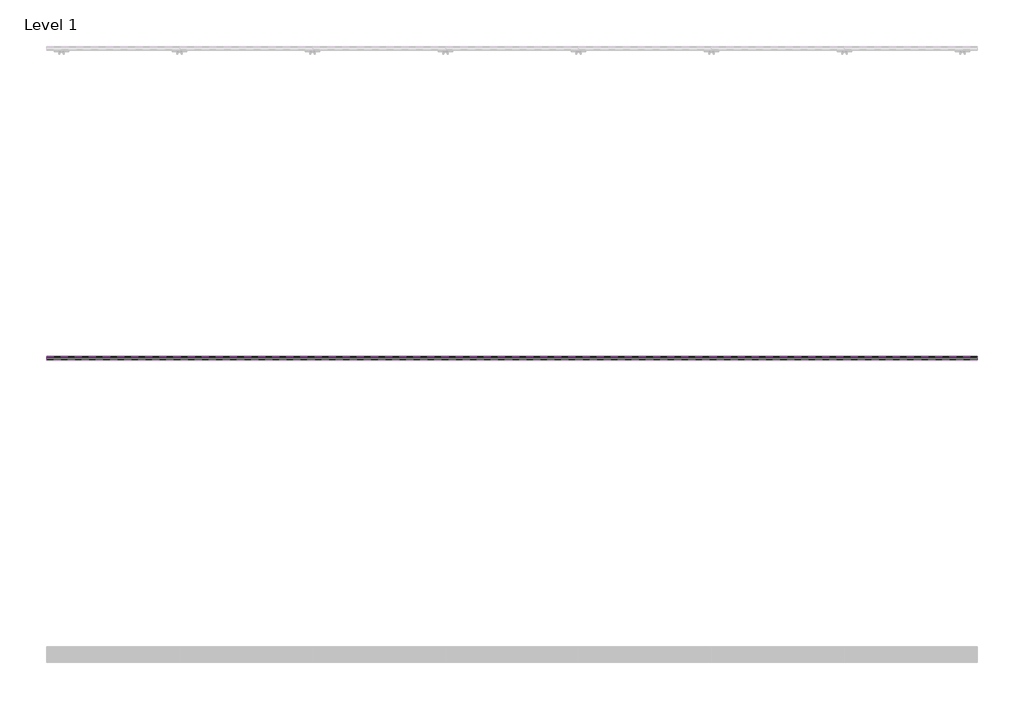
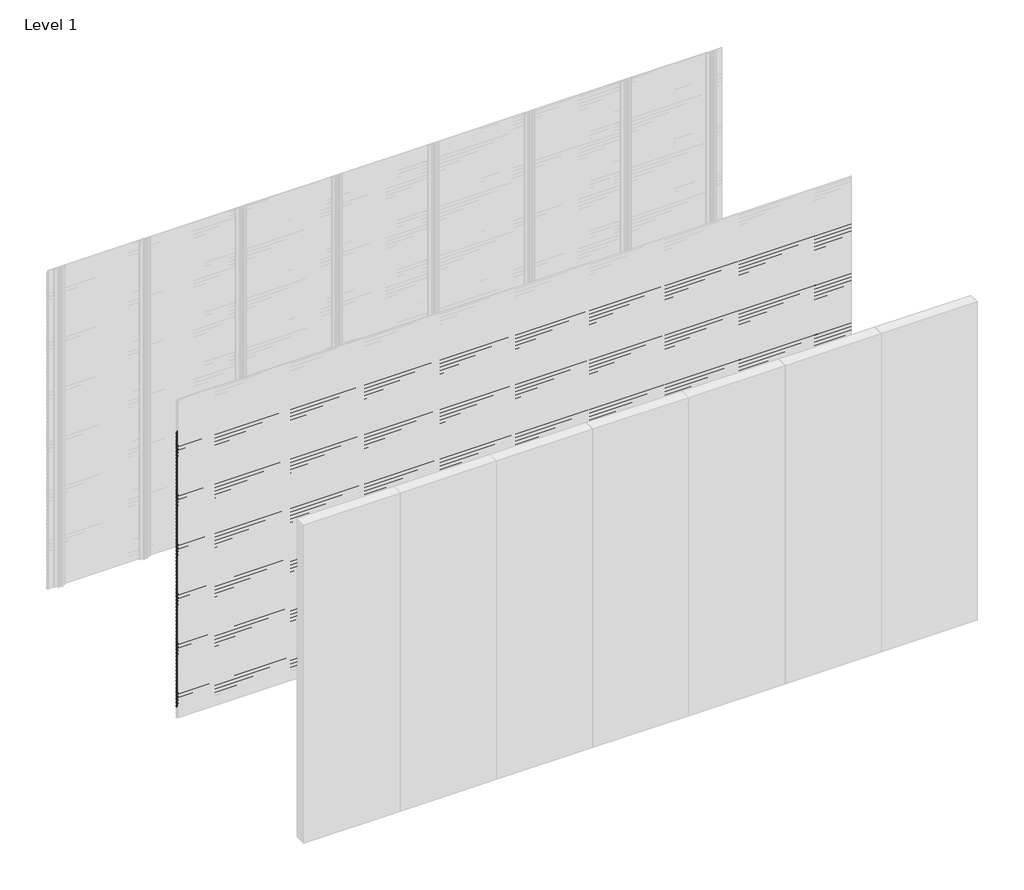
# One storey, part 4 of 96: 78 proxies.
"""IFC4 building model written with IfcOpenShell, lengths in millimetres."""

from ifc_helpers import new_model, si_unit, frame, origin, place, context, project, spatial, polyline, outline, extrude, element, save

model = new_model("IFC4")

# Units and contexts
model_context = context("Model", 3, world=origin())
ifc_project = project(units=[si_unit("LENGTHUNIT", "METRE", prefix="MILLI")], contexts=[model_context])

# Site, building, storey
site = spatial("IfcSite", under=ifc_project)
building = spatial("IfcBuilding", under=site)
storey = spatial("IfcBuildingStorey", under=building, Name="Level 1", Elevation=0.0)

# Proxies
placement = place(None, origin())
element("IfcBuildingElementProxy", 1, Name="Wall Sweeps", at=placement, inside=storey, context=model_context, shape_type="SweptSolid", body=[
    extrude(outline(polyline([(-55977.6, 2672.0655033), (-55977.6, 2657.7779188), (-55982.4114965, 2655.0), (-55982.4114965, 2656.2701706), (-55978.85, 2658.3264016), (-55978.85, 2671.3437382), (-55998.0, 2682.4000799), (-55998.0, 2697.3), (-55996.75, 2697.3), (-55996.75, 2683.1217609), (-55977.6, 2672.0655033)])), frame((0.0, 0.0, 0.0), z_axis=(1.0, 0.0, 0.0), x_axis=(0.0, 1.0, 0.0)), (0.0, 0.0, 1.0), 6000.0),
])
element("IfcBuildingElementProxy", 2, Name="Wall Sweeps", at=placement, inside=storey, context=model_context, shape_type="SweptSolid", body=[
    extrude(outline(polyline([(-55977.6, 2638.7655033), (-55977.6, 2624.4779188), (-55982.4114965, 2621.7), (-55982.4114965, 2622.9701706), (-55978.85, 2625.0264016), (-55978.85, 2638.0437382), (-55998.0, 2649.1000799), (-55998.0, 2664.0), (-55996.75, 2664.0), (-55996.75, 2649.8217609), (-55977.6, 2638.7655033)])), frame((0.0, 0.0, 0.0), z_axis=(1.0, 0.0, 0.0), x_axis=(0.0, 1.0, 0.0)), (0.0, 0.0, 1.0), 6000.0),
])
element("IfcBuildingElementProxy", 3, Name="Wall Sweeps", at=placement, inside=storey, context=model_context, shape_type="SweptSolid", body=[
    extrude(outline(polyline([(-55977.6, 2605.4655033), (-55977.6, 2591.1779188), (-55982.4114965, 2588.4), (-55982.4114965, 2589.6701706), (-55978.85, 2591.7264016), (-55978.85, 2604.7437382), (-55998.0, 2615.8000799), (-55998.0, 2630.7), (-55996.75, 2630.7), (-55996.75, 2616.5217609), (-55977.6, 2605.4655033)])), frame((0.0, 0.0, 0.0), z_axis=(1.0, 0.0, 0.0), x_axis=(0.0, 1.0, 0.0)), (0.0, 0.0, 1.0), 6000.0),
])
element("IfcBuildingElementProxy", 4, Name="Wall Sweeps", at=placement, inside=storey, context=model_context, shape_type="SweptSolid", body=[
    extrude(outline(polyline([(-55977.6, 2572.1655033), (-55977.6, 2557.8779188), (-55982.4114965, 2555.1), (-55982.4114965, 2556.3701706), (-55978.85, 2558.4264016), (-55978.85, 2571.4437382), (-55998.0, 2582.5000799), (-55998.0, 2597.4), (-55996.75, 2597.4), (-55996.75, 2583.2217609), (-55977.6, 2572.1655033)])), frame((0.0, 0.0, 0.0), z_axis=(1.0, 0.0, 0.0), x_axis=(0.0, 1.0, 0.0)), (0.0, 0.0, 1.0), 6000.0),
])
element("IfcBuildingElementProxy", 5, Name="Wall Sweeps", at=placement, inside=storey, context=model_context, shape_type="SweptSolid", body=[
    extrude(outline(polyline([(-55977.6, 2538.8655033), (-55977.6, 2524.5779188), (-55982.4114965, 2521.8), (-55982.4114965, 2523.0701706), (-55978.85, 2525.1264016), (-55978.85, 2538.1437382), (-55998.0, 2549.2000799), (-55998.0, 2564.1), (-55996.75, 2564.1), (-55996.75, 2549.9217609), (-55977.6, 2538.8655033)])), frame((0.0, 0.0, 0.0), z_axis=(1.0, 0.0, 0.0), x_axis=(0.0, 1.0, 0.0)), (0.0, 0.0, 1.0), 6000.0),
])
element("IfcBuildingElementProxy", 6, Name="Wall Sweeps", at=placement, inside=storey, context=model_context, shape_type="SweptSolid", body=[
    extrude(outline(polyline([(-55977.6, 2505.5655033), (-55977.6, 2491.2779188), (-55982.4114965, 2488.5), (-55982.4114965, 2489.7701706), (-55978.85, 2491.8264016), (-55978.85, 2504.8437382), (-55998.0, 2515.9000799), (-55998.0, 2530.8), (-55996.75, 2530.8), (-55996.75, 2516.6217609), (-55977.6, 2505.5655033)])), frame((0.0, 0.0, 0.0), z_axis=(1.0, 0.0, 0.0), x_axis=(0.0, 1.0, 0.0)), (0.0, 0.0, 1.0), 6000.0),
])
element("IfcBuildingElementProxy", 7, Name="Wall Sweeps", at=placement, inside=storey, context=model_context, shape_type="SweptSolid", body=[
    extrude(outline(polyline([(-55977.6, 2472.2655033), (-55977.6, 2457.9779188), (-55982.4114965, 2455.2), (-55982.4114965, 2456.4701706), (-55978.85, 2458.5264016), (-55978.85, 2471.5437382), (-55998.0, 2482.6000799), (-55998.0, 2497.5), (-55996.75, 2497.5), (-55996.75, 2483.3217609), (-55977.6, 2472.2655033)])), frame((0.0, 0.0, 0.0), z_axis=(1.0, 0.0, 0.0), x_axis=(0.0, 1.0, 0.0)), (0.0, 0.0, 1.0), 6000.0),
])
element("IfcBuildingElementProxy", 8, Name="Wall Sweeps", at=placement, inside=storey, context=model_context, shape_type="SweptSolid", body=[
    extrude(outline(polyline([(-55977.6, 2438.9655033), (-55977.6, 2424.6779188), (-55982.4114965, 2421.9), (-55982.4114965, 2423.1701706), (-55978.85, 2425.2264016), (-55978.85, 2438.2437382), (-55998.0, 2449.3000799), (-55998.0, 2464.2), (-55996.75, 2464.2), (-55996.75, 2450.0217609), (-55977.6, 2438.9655033)])), frame((0.0, 0.0, 0.0), z_axis=(1.0, 0.0, 0.0), x_axis=(0.0, 1.0, 0.0)), (0.0, 0.0, 1.0), 6000.0),
])
element("IfcBuildingElementProxy", 9, Name="Wall Sweeps", at=placement, inside=storey, context=model_context, shape_type="SweptSolid", body=[
    extrude(outline(polyline([(-55977.6, 2405.6655033), (-55977.6, 2391.3779188), (-55982.4114965, 2388.6), (-55982.4114965, 2389.8701706), (-55978.85, 2391.9264016), (-55978.85, 2404.9437382), (-55998.0, 2416.0000799), (-55998.0, 2430.9), (-55996.75, 2430.9), (-55996.75, 2416.7217609), (-55977.6, 2405.6655033)])), frame((0.0, 0.0, 0.0), z_axis=(1.0, 0.0, 0.0), x_axis=(0.0, 1.0, 0.0)), (0.0, 0.0, 1.0), 6000.0),
])
element("IfcBuildingElementProxy", 10, Name="Wall Sweeps", at=placement, inside=storey, context=model_context, shape_type="SweptSolid", body=[
    extrude(outline(polyline([(-55977.6, 2372.3655033), (-55977.6, 2358.0779188), (-55982.4114965, 2355.3), (-55982.4114965, 2356.5701706), (-55978.85, 2358.6264016), (-55978.85, 2371.6437382), (-55998.0, 2382.7000799), (-55998.0, 2397.6), (-55996.75, 2397.6), (-55996.75, 2383.4217609), (-55977.6, 2372.3655033)])), frame((0.0, 0.0, 0.0), z_axis=(1.0, 0.0, 0.0), x_axis=(0.0, 1.0, 0.0)), (0.0, 0.0, 1.0), 6000.0),
])
element("IfcBuildingElementProxy", 11, Name="Wall Sweeps", at=placement, inside=storey, context=model_context, shape_type="SweptSolid", body=[
    extrude(outline(polyline([(-55977.6, 2339.0655033), (-55977.6, 2324.7779188), (-55982.4114965, 2322.0), (-55982.4114965, 2323.2701706), (-55978.85, 2325.3264016), (-55978.85, 2338.3437382), (-55998.0, 2349.4000799), (-55998.0, 2364.3), (-55996.75, 2364.3), (-55996.75, 2350.1217609), (-55977.6, 2339.0655033)])), frame((0.0, 0.0, 0.0), z_axis=(1.0, 0.0, 0.0), x_axis=(0.0, 1.0, 0.0)), (0.0, 0.0, 1.0), 6000.0),
])
element("IfcBuildingElementProxy", 12, Name="Wall Sweeps", at=placement, inside=storey, context=model_context, shape_type="SweptSolid", body=[
    extrude(outline(polyline([(-55977.6, 2305.7655033), (-55977.6, 2291.4779188), (-55982.4114965, 2288.7), (-55982.4114965, 2289.9701706), (-55978.85, 2292.0264016), (-55978.85, 2305.0437382), (-55998.0, 2316.1000799), (-55998.0, 2331.0), (-55996.75, 2331.0), (-55996.75, 2316.8217609), (-55977.6, 2305.7655033)])), frame((0.0, 0.0, 0.0), z_axis=(1.0, 0.0, 0.0), x_axis=(0.0, 1.0, 0.0)), (0.0, 0.0, 1.0), 6000.0),
])
element("IfcBuildingElementProxy", 13, Name="Wall Sweeps", at=placement, inside=storey, context=model_context, shape_type="SweptSolid", body=[
    extrude(outline(polyline([(-55977.6, 2272.4655033), (-55977.6, 2258.1779188), (-55982.4114965, 2255.4), (-55982.4114965, 2256.6701706), (-55978.85, 2258.7264016), (-55978.85, 2271.7437382), (-55998.0, 2282.8000799), (-55998.0, 2297.7), (-55996.75, 2297.7), (-55996.75, 2283.5217609), (-55977.6, 2272.4655033)])), frame((0.0, 0.0, 0.0), z_axis=(1.0, 0.0, 0.0), x_axis=(0.0, 1.0, 0.0)), (0.0, 0.0, 1.0), 6000.0),
])
element("IfcBuildingElementProxy", 14, Name="Wall Sweeps", at=placement, inside=storey, context=model_context, shape_type="SweptSolid", body=[
    extrude(outline(polyline([(-55977.6, 2239.1655033), (-55977.6, 2224.8779188), (-55982.4114965, 2222.1), (-55982.4114965, 2223.3701706), (-55978.85, 2225.4264016), (-55978.85, 2238.4437382), (-55998.0, 2249.5000799), (-55998.0, 2264.4), (-55996.75, 2264.4), (-55996.75, 2250.2217609), (-55977.6, 2239.1655033)])), frame((0.0, 0.0, 0.0), z_axis=(1.0, 0.0, 0.0), x_axis=(0.0, 1.0, 0.0)), (0.0, 0.0, 1.0), 6000.0),
])
element("IfcBuildingElementProxy", 15, Name="Wall Sweeps", at=placement, inside=storey, context=model_context, shape_type="SweptSolid", body=[
    extrude(outline(polyline([(-55977.6, 2205.8655033), (-55977.6, 2191.5779188), (-55982.4114965, 2188.8), (-55982.4114965, 2190.0701706), (-55978.85, 2192.1264016), (-55978.85, 2205.1437382), (-55998.0, 2216.2000799), (-55998.0, 2231.1), (-55996.75, 2231.1), (-55996.75, 2216.9217609), (-55977.6, 2205.8655033)])), frame((0.0, 0.0, 0.0), z_axis=(1.0, 0.0, 0.0), x_axis=(0.0, 1.0, 0.0)), (0.0, 0.0, 1.0), 6000.0),
])
element("IfcBuildingElementProxy", 16, Name="Wall Sweeps", at=placement, inside=storey, context=model_context, shape_type="SweptSolid", body=[
    extrude(outline(polyline([(-55977.6, 2172.5655033), (-55977.6, 2158.2779188), (-55982.4114965, 2155.5), (-55982.4114965, 2156.7701706), (-55978.85, 2158.8264016), (-55978.85, 2171.8437382), (-55998.0, 2182.9000799), (-55998.0, 2197.8), (-55996.75, 2197.8), (-55996.75, 2183.6217609), (-55977.6, 2172.5655033)])), frame((0.0, 0.0, 0.0), z_axis=(1.0, 0.0, 0.0), x_axis=(0.0, 1.0, 0.0)), (0.0, 0.0, 1.0), 6000.0),
])
element("IfcBuildingElementProxy", 17, Name="Wall Sweeps", at=placement, inside=storey, context=model_context, shape_type="SweptSolid", body=[
    extrude(outline(polyline([(-55977.6, 2139.2655033), (-55977.6, 2124.9779188), (-55982.4114965, 2122.2), (-55982.4114965, 2123.4701706), (-55978.85, 2125.5264016), (-55978.85, 2138.5437382), (-55998.0, 2149.6000799), (-55998.0, 2164.5), (-55996.75, 2164.5), (-55996.75, 2150.3217609), (-55977.6, 2139.2655033)])), frame((0.0, 0.0, 0.0), z_axis=(1.0, 0.0, 0.0), x_axis=(0.0, 1.0, 0.0)), (0.0, 0.0, 1.0), 6000.0),
])
element("IfcBuildingElementProxy", 18, Name="Wall Sweeps", at=placement, inside=storey, context=model_context, shape_type="SweptSolid", body=[
    extrude(outline(polyline([(-55977.6, 2105.9655033), (-55977.6, 2091.6779188), (-55982.4114965, 2088.9), (-55982.4114965, 2090.1701706), (-55978.85, 2092.2264016), (-55978.85, 2105.2437382), (-55998.0, 2116.3000799), (-55998.0, 2131.2), (-55996.75, 2131.2), (-55996.75, 2117.0217609), (-55977.6, 2105.9655033)])), frame((0.0, 0.0, 0.0), z_axis=(1.0, 0.0, 0.0), x_axis=(0.0, 1.0, 0.0)), (0.0, 0.0, 1.0), 6000.0),
])
element("IfcBuildingElementProxy", 19, Name="Wall Sweeps", at=placement, inside=storey, context=model_context, shape_type="SweptSolid", body=[
    extrude(outline(polyline([(-55977.6, 2072.6655033), (-55977.6, 2058.3779188), (-55982.4114965, 2055.6), (-55982.4114965, 2056.8701706), (-55978.85, 2058.9264016), (-55978.85, 2071.9437382), (-55998.0, 2083.0000799), (-55998.0, 2097.9), (-55996.75, 2097.9), (-55996.75, 2083.7217609), (-55977.6, 2072.6655033)])), frame((0.0, 0.0, 0.0), z_axis=(1.0, 0.0, 0.0), x_axis=(0.0, 1.0, 0.0)), (0.0, 0.0, 1.0), 6000.0),
])
element("IfcBuildingElementProxy", 20, Name="Wall Sweeps", at=placement, inside=storey, context=model_context, shape_type="SweptSolid", body=[
    extrude(outline(polyline([(-55977.6, 2039.3655033), (-55977.6, 2025.0779188), (-55982.4114965, 2022.3), (-55982.4114965, 2023.5701706), (-55978.85, 2025.6264016), (-55978.85, 2038.6437382), (-55998.0, 2049.7000799), (-55998.0, 2064.6), (-55996.75, 2064.6), (-55996.75, 2050.4217609), (-55977.6, 2039.3655033)])), frame((0.0, 0.0, 0.0), z_axis=(1.0, 0.0, 0.0), x_axis=(0.0, 1.0, 0.0)), (0.0, 0.0, 1.0), 6000.0),
])
element("IfcBuildingElementProxy", 21, Name="Wall Sweeps", at=placement, inside=storey, context=model_context, shape_type="SweptSolid", body=[
    extrude(outline(polyline([(-55977.6, 2006.0655033), (-55977.6, 1991.7779188), (-55982.4114965, 1989.0), (-55982.4114965, 1990.2701706), (-55978.85, 1992.3264016), (-55978.85, 2005.3437382), (-55998.0, 2016.4000799), (-55998.0, 2031.3), (-55996.75, 2031.3), (-55996.75, 2017.1217609), (-55977.6, 2006.0655033)])), frame((0.0, 0.0, 0.0), z_axis=(1.0, 0.0, 0.0), x_axis=(0.0, 1.0, 0.0)), (0.0, 0.0, 1.0), 6000.0),
])
element("IfcBuildingElementProxy", 22, Name="Wall Sweeps", at=placement, inside=storey, context=model_context, shape_type="SweptSolid", body=[
    extrude(outline(polyline([(-55977.6, 1972.7655033), (-55977.6, 1958.4779188), (-55982.4114965, 1955.7), (-55982.4114965, 1956.9701706), (-55978.85, 1959.0264016), (-55978.85, 1972.0437382), (-55998.0, 1983.1000799), (-55998.0, 1998.0), (-55996.75, 1998.0), (-55996.75, 1983.8217609), (-55977.6, 1972.7655033)])), frame((0.0, 0.0, 0.0), z_axis=(1.0, 0.0, 0.0), x_axis=(0.0, 1.0, 0.0)), (0.0, 0.0, 1.0), 6000.0),
])
element("IfcBuildingElementProxy", 23, Name="Wall Sweeps", at=placement, inside=storey, context=model_context, shape_type="SweptSolid", body=[
    extrude(outline(polyline([(-55977.6, 1939.4655033), (-55977.6, 1925.1779188), (-55982.4114965, 1922.4), (-55982.4114965, 1923.6701706), (-55978.85, 1925.7264016), (-55978.85, 1938.7437382), (-55998.0, 1949.8000799), (-55998.0, 1964.7), (-55996.75, 1964.7), (-55996.75, 1950.5217609), (-55977.6, 1939.4655033)])), frame((0.0, 0.0, 0.0), z_axis=(1.0, 0.0, 0.0), x_axis=(0.0, 1.0, 0.0)), (0.0, 0.0, 1.0), 6000.0),
])
element("IfcBuildingElementProxy", 24, Name="Wall Sweeps", at=placement, inside=storey, context=model_context, shape_type="SweptSolid", body=[
    extrude(outline(polyline([(-55977.6, 1906.1655033), (-55977.6, 1891.8779188), (-55982.4114965, 1889.1), (-55982.4114965, 1890.3701706), (-55978.85, 1892.4264016), (-55978.85, 1905.4437382), (-55998.0, 1916.5000799), (-55998.0, 1931.4), (-55996.75, 1931.4), (-55996.75, 1917.2217609), (-55977.6, 1906.1655033)])), frame((0.0, 0.0, 0.0), z_axis=(1.0, 0.0, 0.0), x_axis=(0.0, 1.0, 0.0)), (0.0, 0.0, 1.0), 6000.0),
])
element("IfcBuildingElementProxy", 25, Name="Wall Sweeps", at=placement, inside=storey, context=model_context, shape_type="SweptSolid", body=[
    extrude(outline(polyline([(-55977.6, 1872.8655033), (-55977.6, 1858.5779188), (-55982.4114965, 1855.8), (-55982.4114965, 1857.0701706), (-55978.85, 1859.1264016), (-55978.85, 1872.1437382), (-55998.0, 1883.2000799), (-55998.0, 1898.1), (-55996.75, 1898.1), (-55996.75, 1883.9217609), (-55977.6, 1872.8655033)])), frame((0.0, 0.0, 0.0), z_axis=(1.0, 0.0, 0.0), x_axis=(0.0, 1.0, 0.0)), (0.0, 0.0, 1.0), 6000.0),
])
element("IfcBuildingElementProxy", 26, Name="Wall Sweeps", at=placement, inside=storey, context=model_context, shape_type="SweptSolid", body=[
    extrude(outline(polyline([(-55977.6, 1839.5655033), (-55977.6, 1825.2779188), (-55982.4114965, 1822.5), (-55982.4114965, 1823.7701706), (-55978.85, 1825.8264016), (-55978.85, 1838.8437382), (-55998.0, 1849.9000799), (-55998.0, 1864.8), (-55996.75, 1864.8), (-55996.75, 1850.6217609), (-55977.6, 1839.5655033)])), frame((0.0, 0.0, 0.0), z_axis=(1.0, 0.0, 0.0), x_axis=(0.0, 1.0, 0.0)), (0.0, 0.0, 1.0), 6000.0),
])
element("IfcBuildingElementProxy", 27, Name="Wall Sweeps", at=placement, inside=storey, context=model_context, shape_type="SweptSolid", body=[
    extrude(outline(polyline([(-55977.6, 1806.2655033), (-55977.6, 1791.9779188), (-55982.4114965, 1789.2), (-55982.4114965, 1790.4701706), (-55978.85, 1792.5264016), (-55978.85, 1805.5437382), (-55998.0, 1816.6000799), (-55998.0, 1831.5), (-55996.75, 1831.5), (-55996.75, 1817.3217609), (-55977.6, 1806.2655033)])), frame((0.0, 0.0, 0.0), z_axis=(1.0, 0.0, 0.0), x_axis=(0.0, 1.0, 0.0)), (0.0, 0.0, 1.0), 6000.0),
])
element("IfcBuildingElementProxy", 28, Name="Wall Sweeps", at=placement, inside=storey, context=model_context, shape_type="SweptSolid", body=[
    extrude(outline(polyline([(-55977.6, 1772.9655033), (-55977.6, 1758.6779188), (-55982.4114965, 1755.9), (-55982.4114965, 1757.1701706), (-55978.85, 1759.2264016), (-55978.85, 1772.2437382), (-55998.0, 1783.3000799), (-55998.0, 1798.2), (-55996.75, 1798.2), (-55996.75, 1784.0217609), (-55977.6, 1772.9655033)])), frame((0.0, 0.0, 0.0), z_axis=(1.0, 0.0, 0.0), x_axis=(0.0, 1.0, 0.0)), (0.0, 0.0, 1.0), 6000.0),
])
element("IfcBuildingElementProxy", 29, Name="Wall Sweeps", at=placement, inside=storey, context=model_context, shape_type="SweptSolid", body=[
    extrude(outline(polyline([(-55977.6, 1739.6655033), (-55977.6, 1725.3779188), (-55982.4114965, 1722.6), (-55982.4114965, 1723.8701706), (-55978.85, 1725.9264016), (-55978.85, 1738.9437382), (-55998.0, 1750.0000799), (-55998.0, 1764.9), (-55996.75, 1764.9), (-55996.75, 1750.7217609), (-55977.6, 1739.6655033)])), frame((0.0, 0.0, 0.0), z_axis=(1.0, 0.0, 0.0), x_axis=(0.0, 1.0, 0.0)), (0.0, 0.0, 1.0), 6000.0),
])
element("IfcBuildingElementProxy", 30, Name="Wall Sweeps", at=placement, inside=storey, context=model_context, shape_type="SweptSolid", body=[
    extrude(outline(polyline([(-55977.6, 1706.3655033), (-55977.6, 1692.0779188), (-55982.4114965, 1689.3), (-55982.4114965, 1690.5701706), (-55978.85, 1692.6264016), (-55978.85, 1705.6437382), (-55998.0, 1716.7000799), (-55998.0, 1731.6), (-55996.75, 1731.6), (-55996.75, 1717.4217609), (-55977.6, 1706.3655033)])), frame((0.0, 0.0, 0.0), z_axis=(1.0, 0.0, 0.0), x_axis=(0.0, 1.0, 0.0)), (0.0, 0.0, 1.0), 6000.0),
])
element("IfcBuildingElementProxy", 31, Name="Wall Sweeps", at=placement, inside=storey, context=model_context, shape_type="SweptSolid", body=[
    extrude(outline(polyline([(-55977.6, 1673.0655033), (-55977.6, 1658.7779188), (-55982.4114965, 1656.0), (-55982.4114965, 1657.2701706), (-55978.85, 1659.3264016), (-55978.85, 1672.3437382), (-55998.0, 1683.4000799), (-55998.0, 1698.3), (-55996.75, 1698.3), (-55996.75, 1684.1217609), (-55977.6, 1673.0655033)])), frame((0.0, 0.0, 0.0), z_axis=(1.0, 0.0, 0.0), x_axis=(0.0, 1.0, 0.0)), (0.0, 0.0, 1.0), 6000.0),
])
element("IfcBuildingElementProxy", 32, Name="Wall Sweeps", at=placement, inside=storey, context=model_context, shape_type="SweptSolid", body=[
    extrude(outline(polyline([(-55977.6, 1639.7655033), (-55977.6, 1625.4779188), (-55982.4114965, 1622.7), (-55982.4114965, 1623.9701706), (-55978.85, 1626.0264016), (-55978.85, 1639.0437382), (-55998.0, 1650.1000799), (-55998.0, 1665.0), (-55996.75, 1665.0), (-55996.75, 1650.8217609), (-55977.6, 1639.7655033)])), frame((0.0, 0.0, 0.0), z_axis=(1.0, 0.0, 0.0), x_axis=(0.0, 1.0, 0.0)), (0.0, 0.0, 1.0), 6000.0),
])
element("IfcBuildingElementProxy", 33, Name="Wall Sweeps", at=placement, inside=storey, context=model_context, shape_type="SweptSolid", body=[
    extrude(outline(polyline([(-55977.6, 1606.4655033), (-55977.6, 1592.1779188), (-55982.4114965, 1589.4), (-55982.4114965, 1590.6701706), (-55978.85, 1592.7264016), (-55978.85, 1605.7437382), (-55998.0, 1616.8000799), (-55998.0, 1631.7), (-55996.75, 1631.7), (-55996.75, 1617.5217609), (-55977.6, 1606.4655033)])), frame((0.0, 0.0, 0.0), z_axis=(1.0, 0.0, 0.0), x_axis=(0.0, 1.0, 0.0)), (0.0, 0.0, 1.0), 6000.0),
])
element("IfcBuildingElementProxy", 34, Name="Wall Sweeps", at=placement, inside=storey, context=model_context, shape_type="SweptSolid", body=[
    extrude(outline(polyline([(-55977.6, 1573.1655033), (-55977.6, 1558.8779188), (-55982.4114965, 1556.1), (-55982.4114965, 1557.3701706), (-55978.85, 1559.4264016), (-55978.85, 1572.4437382), (-55998.0, 1583.5000799), (-55998.0, 1598.4), (-55996.75, 1598.4), (-55996.75, 1584.2217609), (-55977.6, 1573.1655033)])), frame((0.0, 0.0, 0.0), z_axis=(1.0, 0.0, 0.0), x_axis=(0.0, 1.0, 0.0)), (0.0, 0.0, 1.0), 6000.0),
])
element("IfcBuildingElementProxy", 35, Name="Wall Sweeps", at=placement, inside=storey, context=model_context, shape_type="SweptSolid", body=[
    extrude(outline(polyline([(-55977.6, 1539.8655033), (-55977.6, 1525.5779188), (-55982.4114965, 1522.8), (-55982.4114965, 1524.0701706), (-55978.85, 1526.1264016), (-55978.85, 1539.1437382), (-55998.0, 1550.2000799), (-55998.0, 1565.1), (-55996.75, 1565.1), (-55996.75, 1550.9217609), (-55977.6, 1539.8655033)])), frame((0.0, 0.0, 0.0), z_axis=(1.0, 0.0, 0.0), x_axis=(0.0, 1.0, 0.0)), (0.0, 0.0, 1.0), 6000.0),
])
element("IfcBuildingElementProxy", 36, Name="Wall Sweeps", at=placement, inside=storey, context=model_context, shape_type="SweptSolid", body=[
    extrude(outline(polyline([(-55977.6, 1506.5655033), (-55977.6, 1492.2779188), (-55982.4114965, 1489.5), (-55982.4114965, 1490.7701706), (-55978.85, 1492.8264016), (-55978.85, 1505.8437382), (-55998.0, 1516.9000799), (-55998.0, 1531.8), (-55996.75, 1531.8), (-55996.75, 1517.6217609), (-55977.6, 1506.5655033)])), frame((0.0, 0.0, 0.0), z_axis=(1.0, 0.0, 0.0), x_axis=(0.0, 1.0, 0.0)), (0.0, 0.0, 1.0), 6000.0),
])
element("IfcBuildingElementProxy", 37, Name="Wall Sweeps", at=placement, inside=storey, context=model_context, shape_type="SweptSolid", body=[
    extrude(outline(polyline([(-55977.6, 1473.2655033), (-55977.6, 1458.9779188), (-55982.4114965, 1456.2), (-55982.4114965, 1457.4701706), (-55978.85, 1459.5264016), (-55978.85, 1472.5437382), (-55998.0, 1483.6000799), (-55998.0, 1498.5), (-55996.75, 1498.5), (-55996.75, 1484.3217609), (-55977.6, 1473.2655033)])), frame((0.0, 0.0, 0.0), z_axis=(1.0, 0.0, 0.0), x_axis=(0.0, 1.0, 0.0)), (0.0, 0.0, 1.0), 6000.0),
])
element("IfcBuildingElementProxy", 38, Name="Wall Sweeps", at=placement, inside=storey, context=model_context, shape_type="SweptSolid", body=[
    extrude(outline(polyline([(-55977.6, 1439.9655033), (-55977.6, 1425.6779188), (-55982.4114965, 1422.9), (-55982.4114965, 1424.1701706), (-55978.85, 1426.2264016), (-55978.85, 1439.2437382), (-55998.0, 1450.3000799), (-55998.0, 1465.2), (-55996.75, 1465.2), (-55996.75, 1451.0217609), (-55977.6, 1439.9655033)])), frame((0.0, 0.0, 0.0), z_axis=(1.0, 0.0, 0.0), x_axis=(0.0, 1.0, 0.0)), (0.0, 0.0, 1.0), 6000.0),
])
element("IfcBuildingElementProxy", 39, Name="Wall Sweeps", at=placement, inside=storey, context=model_context, shape_type="SweptSolid", body=[
    extrude(outline(polyline([(-55977.6, 1406.6655033), (-55977.6, 1392.3779188), (-55982.4114965, 1389.6), (-55982.4114965, 1390.8701706), (-55978.85, 1392.9264016), (-55978.85, 1405.9437382), (-55998.0, 1417.0000799), (-55998.0, 1431.9), (-55996.75, 1431.9), (-55996.75, 1417.7217609), (-55977.6, 1406.6655033)])), frame((0.0, 0.0, 0.0), z_axis=(1.0, 0.0, 0.0), x_axis=(0.0, 1.0, 0.0)), (0.0, 0.0, 1.0), 6000.0),
])
element("IfcBuildingElementProxy", 40, Name="Wall Sweeps", at=placement, inside=storey, context=model_context, shape_type="SweptSolid", body=[
    extrude(outline(polyline([(-55977.6, 1373.3655033), (-55977.6, 1359.0779188), (-55982.4114965, 1356.3), (-55982.4114965, 1357.5701706), (-55978.85, 1359.6264016), (-55978.85, 1372.6437382), (-55998.0, 1383.7000799), (-55998.0, 1398.6), (-55996.75, 1398.6), (-55996.75, 1384.4217609), (-55977.6, 1373.3655033)])), frame((0.0, 0.0, 0.0), z_axis=(1.0, 0.0, 0.0), x_axis=(0.0, 1.0, 0.0)), (0.0, 0.0, 1.0), 6000.0),
])
element("IfcBuildingElementProxy", 41, Name="Wall Sweeps", at=placement, inside=storey, context=model_context, shape_type="SweptSolid", body=[
    extrude(outline(polyline([(-55977.6, 1340.0655033), (-55977.6, 1325.7779188), (-55982.4114965, 1323.0), (-55982.4114965, 1324.2701706), (-55978.85, 1326.3264016), (-55978.85, 1339.3437382), (-55998.0, 1350.4000799), (-55998.0, 1365.3), (-55996.75, 1365.3), (-55996.75, 1351.1217609), (-55977.6, 1340.0655033)])), frame((0.0, 0.0, 0.0), z_axis=(1.0, 0.0, 0.0), x_axis=(0.0, 1.0, 0.0)), (0.0, 0.0, 1.0), 6000.0),
])
element("IfcBuildingElementProxy", 42, Name="Wall Sweeps", at=placement, inside=storey, context=model_context, shape_type="SweptSolid", body=[
    extrude(outline(polyline([(-55977.6, 1306.7655033), (-55977.6, 1292.4779188), (-55982.4114965, 1289.7), (-55982.4114965, 1290.9701706), (-55978.85, 1293.0264016), (-55978.85, 1306.0437382), (-55998.0, 1317.1000799), (-55998.0, 1332.0), (-55996.75, 1332.0), (-55996.75, 1317.8217609), (-55977.6, 1306.7655033)])), frame((0.0, 0.0, 0.0), z_axis=(1.0, 0.0, 0.0), x_axis=(0.0, 1.0, 0.0)), (0.0, 0.0, 1.0), 6000.0),
])
element("IfcBuildingElementProxy", 43, Name="Wall Sweeps", at=placement, inside=storey, context=model_context, shape_type="SweptSolid", body=[
    extrude(outline(polyline([(-55977.6, 1273.4655033), (-55977.6, 1259.1779188), (-55982.4114965, 1256.4), (-55982.4114965, 1257.6701706), (-55978.85, 1259.7264016), (-55978.85, 1272.7437382), (-55998.0, 1283.8000799), (-55998.0, 1298.7), (-55996.75, 1298.7), (-55996.75, 1284.5217609), (-55977.6, 1273.4655033)])), frame((0.0, 0.0, 0.0), z_axis=(1.0, 0.0, 0.0), x_axis=(0.0, 1.0, 0.0)), (0.0, 0.0, 1.0), 6000.0),
])
element("IfcBuildingElementProxy", 44, Name="Wall Sweeps", at=placement, inside=storey, context=model_context, shape_type="SweptSolid", body=[
    extrude(outline(polyline([(-55977.6, 1240.1655033), (-55977.6, 1225.8779188), (-55982.4114965, 1223.1), (-55982.4114965, 1224.3701706), (-55978.85, 1226.4264016), (-55978.85, 1239.4437382), (-55998.0, 1250.5000799), (-55998.0, 1265.4), (-55996.75, 1265.4), (-55996.75, 1251.2217609), (-55977.6, 1240.1655033)])), frame((0.0, 0.0, 0.0), z_axis=(1.0, 0.0, 0.0), x_axis=(0.0, 1.0, 0.0)), (0.0, 0.0, 1.0), 6000.0),
])
element("IfcBuildingElementProxy", 45, Name="Wall Sweeps", at=placement, inside=storey, context=model_context, shape_type="SweptSolid", body=[
    extrude(outline(polyline([(-55977.6, 1206.8655033), (-55977.6, 1192.5779188), (-55982.4114965, 1189.8), (-55982.4114965, 1191.0701706), (-55978.85, 1193.1264016), (-55978.85, 1206.1437382), (-55998.0, 1217.2000799), (-55998.0, 1232.1), (-55996.75, 1232.1), (-55996.75, 1217.9217609), (-55977.6, 1206.8655033)])), frame((0.0, 0.0, 0.0), z_axis=(1.0, 0.0, 0.0), x_axis=(0.0, 1.0, 0.0)), (0.0, 0.0, 1.0), 6000.0),
])
element("IfcBuildingElementProxy", 46, Name="Wall Sweeps", at=placement, inside=storey, context=model_context, shape_type="SweptSolid", body=[
    extrude(outline(polyline([(-55977.6, 1173.5655033), (-55977.6, 1159.2779188), (-55982.4114965, 1156.5), (-55982.4114965, 1157.7701706), (-55978.85, 1159.8264016), (-55978.85, 1172.8437382), (-55998.0, 1183.9000799), (-55998.0, 1198.8), (-55996.75, 1198.8), (-55996.75, 1184.6217609), (-55977.6, 1173.5655033)])), frame((0.0, 0.0, 0.0), z_axis=(1.0, 0.0, 0.0), x_axis=(0.0, 1.0, 0.0)), (0.0, 0.0, 1.0), 6000.0),
])
element("IfcBuildingElementProxy", 47, Name="Wall Sweeps", at=placement, inside=storey, context=model_context, shape_type="SweptSolid", body=[
    extrude(outline(polyline([(-55977.6, 1140.2655033), (-55977.6, 1125.9779188), (-55982.4114965, 1123.2), (-55982.4114965, 1124.4701706), (-55978.85, 1126.5264016), (-55978.85, 1139.5437382), (-55998.0, 1150.6000799), (-55998.0, 1165.5), (-55996.75, 1165.5), (-55996.75, 1151.3217609), (-55977.6, 1140.2655033)])), frame((0.0, 0.0, 0.0), z_axis=(1.0, 0.0, 0.0), x_axis=(0.0, 1.0, 0.0)), (0.0, 0.0, 1.0), 6000.0),
])
element("IfcBuildingElementProxy", 48, Name="Wall Sweeps", at=placement, inside=storey, context=model_context, shape_type="SweptSolid", body=[
    extrude(outline(polyline([(-55977.6, 1106.9655033), (-55977.6, 1092.6779188), (-55982.4114965, 1089.9), (-55982.4114965, 1091.1701706), (-55978.85, 1093.2264016), (-55978.85, 1106.2437382), (-55998.0, 1117.3000799), (-55998.0, 1132.2), (-55996.75, 1132.2), (-55996.75, 1118.0217609), (-55977.6, 1106.9655033)])), frame((0.0, 0.0, 0.0), z_axis=(1.0, 0.0, 0.0), x_axis=(0.0, 1.0, 0.0)), (0.0, 0.0, 1.0), 6000.0),
])
element("IfcBuildingElementProxy", 49, Name="Wall Sweeps", at=placement, inside=storey, context=model_context, shape_type="SweptSolid", body=[
    extrude(outline(polyline([(-55977.6, 1073.6655033), (-55977.6, 1059.3779188), (-55982.4114965, 1056.6), (-55982.4114965, 1057.8701706), (-55978.85, 1059.9264016), (-55978.85, 1072.9437382), (-55998.0, 1084.0000799), (-55998.0, 1098.9), (-55996.75, 1098.9), (-55996.75, 1084.7217609), (-55977.6, 1073.6655033)])), frame((0.0, 0.0, 0.0), z_axis=(1.0, 0.0, 0.0), x_axis=(0.0, 1.0, 0.0)), (0.0, 0.0, 1.0), 6000.0),
])
element("IfcBuildingElementProxy", 50, Name="Wall Sweeps", at=placement, inside=storey, context=model_context, shape_type="SweptSolid", body=[
    extrude(outline(polyline([(-55977.6, 1040.3655033), (-55977.6, 1026.0779188), (-55982.4114965, 1023.3), (-55982.4114965, 1024.5701706), (-55978.85, 1026.6264016), (-55978.85, 1039.6437382), (-55998.0, 1050.7000799), (-55998.0, 1065.6), (-55996.75, 1065.6), (-55996.75, 1051.4217609), (-55977.6, 1040.3655033)])), frame((0.0, 0.0, 0.0), z_axis=(1.0, 0.0, 0.0), x_axis=(0.0, 1.0, 0.0)), (0.0, 0.0, 1.0), 6000.0),
])
element("IfcBuildingElementProxy", 51, Name="Wall Sweeps", at=placement, inside=storey, context=model_context, shape_type="SweptSolid", body=[
    extrude(outline(polyline([(-55977.6, 1007.0655033), (-55977.6, 992.7779188), (-55982.4114965, 990.0), (-55982.4114965, 991.2701706), (-55978.85, 993.3264016), (-55978.85, 1006.3437382), (-55998.0, 1017.4000799), (-55998.0, 1032.3), (-55996.75, 1032.3), (-55996.75, 1018.1217609), (-55977.6, 1007.0655033)])), frame((0.0, 0.0, 0.0), z_axis=(1.0, 0.0, 0.0), x_axis=(0.0, 1.0, 0.0)), (0.0, 0.0, 1.0), 6000.0),
])
element("IfcBuildingElementProxy", 52, Name="Wall Sweeps", at=placement, inside=storey, context=model_context, shape_type="SweptSolid", body=[
    extrude(outline(polyline([(-55977.6, 973.7655033), (-55977.6, 959.4779188), (-55982.4114965, 956.7), (-55982.4114965, 957.9701706), (-55978.85, 960.0264016), (-55978.85, 973.0437382), (-55998.0, 984.1000799), (-55998.0, 999.0), (-55996.75, 999.0), (-55996.75, 984.8217609), (-55977.6, 973.7655033)])), frame((0.0, 0.0, 0.0), z_axis=(1.0, 0.0, 0.0), x_axis=(0.0, 1.0, 0.0)), (0.0, 0.0, 1.0), 6000.0),
])
element("IfcBuildingElementProxy", 53, Name="Wall Sweeps", at=placement, inside=storey, context=model_context, shape_type="SweptSolid", body=[
    extrude(outline(polyline([(-55977.6, 940.4655033), (-55977.6, 926.1779188), (-55982.4114965, 923.4), (-55982.4114965, 924.6701706), (-55978.85, 926.7264016), (-55978.85, 939.7437382), (-55998.0, 950.8000799), (-55998.0, 965.7), (-55996.75, 965.7), (-55996.75, 951.5217609), (-55977.6, 940.4655033)])), frame((0.0, 0.0, 0.0), z_axis=(1.0, 0.0, 0.0), x_axis=(0.0, 1.0, 0.0)), (0.0, 0.0, 1.0), 6000.0),
])
element("IfcBuildingElementProxy", 54, Name="Wall Sweeps", at=placement, inside=storey, context=model_context, shape_type="SweptSolid", body=[
    extrude(outline(polyline([(-55977.6, 907.1655033), (-55977.6, 892.8779188), (-55982.4114965, 890.1), (-55982.4114965, 891.3701706), (-55978.85, 893.4264016), (-55978.85, 906.4437382), (-55998.0, 917.5000799), (-55998.0, 932.4), (-55996.75, 932.4), (-55996.75, 918.2217609), (-55977.6, 907.1655033)])), frame((0.0, 0.0, 0.0), z_axis=(1.0, 0.0, 0.0), x_axis=(0.0, 1.0, 0.0)), (0.0, 0.0, 1.0), 6000.0),
])
element("IfcBuildingElementProxy", 55, Name="Wall Sweeps", at=placement, inside=storey, context=model_context, shape_type="SweptSolid", body=[
    extrude(outline(polyline([(-55977.6, 873.8655033), (-55977.6, 859.5779188), (-55982.4114965, 856.8), (-55982.4114965, 858.0701706), (-55978.85, 860.1264016), (-55978.85, 873.1437382), (-55998.0, 884.2000799), (-55998.0, 899.1), (-55996.75, 899.1), (-55996.75, 884.9217609), (-55977.6, 873.8655033)])), frame((0.0, 0.0, 0.0), z_axis=(1.0, 0.0, 0.0), x_axis=(0.0, 1.0, 0.0)), (0.0, 0.0, 1.0), 6000.0),
])
element("IfcBuildingElementProxy", 56, Name="Wall Sweeps", at=placement, inside=storey, context=model_context, shape_type="SweptSolid", body=[
    extrude(outline(polyline([(-55977.6, 840.5655033), (-55977.6, 826.2779188), (-55982.4114965, 823.5), (-55982.4114965, 824.7701706), (-55978.85, 826.8264016), (-55978.85, 839.8437382), (-55998.0, 850.9000799), (-55998.0, 865.8), (-55996.75, 865.8), (-55996.75, 851.6217609), (-55977.6, 840.5655033)])), frame((0.0, 0.0, 0.0), z_axis=(1.0, 0.0, 0.0), x_axis=(0.0, 1.0, 0.0)), (0.0, 0.0, 1.0), 6000.0),
])
element("IfcBuildingElementProxy", 57, Name="Wall Sweeps", at=placement, inside=storey, context=model_context, shape_type="SweptSolid", body=[
    extrude(outline(polyline([(-55977.6, 807.2655033), (-55977.6, 792.9779188), (-55982.4114965, 790.2), (-55982.4114965, 791.4701706), (-55978.85, 793.5264016), (-55978.85, 806.5437382), (-55998.0, 817.6000799), (-55998.0, 832.5), (-55996.75, 832.5), (-55996.75, 818.3217609), (-55977.6, 807.2655033)])), frame((0.0, 0.0, 0.0), z_axis=(1.0, 0.0, 0.0), x_axis=(0.0, 1.0, 0.0)), (0.0, 0.0, 1.0), 6000.0),
])
element("IfcBuildingElementProxy", 58, Name="Wall Sweeps", at=placement, inside=storey, context=model_context, shape_type="SweptSolid", body=[
    extrude(outline(polyline([(-55977.6, 773.9655033), (-55977.6, 759.6779188), (-55982.4114965, 756.9), (-55982.4114965, 758.1701706), (-55978.85, 760.2264016), (-55978.85, 773.2437382), (-55998.0, 784.3000799), (-55998.0, 799.2), (-55996.75, 799.2), (-55996.75, 785.0217609), (-55977.6, 773.9655033)])), frame((0.0, 0.0, 0.0), z_axis=(1.0, 0.0, 0.0), x_axis=(0.0, 1.0, 0.0)), (0.0, 0.0, 1.0), 6000.0),
])
element("IfcBuildingElementProxy", 59, Name="Wall Sweeps", at=placement, inside=storey, context=model_context, shape_type="SweptSolid", body=[
    extrude(outline(polyline([(-55977.6, 740.6655033), (-55977.6, 726.3779188), (-55982.4114965, 723.6), (-55982.4114965, 724.8701706), (-55978.85, 726.9264016), (-55978.85, 739.9437382), (-55998.0, 751.0000799), (-55998.0, 765.9), (-55996.75, 765.9), (-55996.75, 751.7217609), (-55977.6, 740.6655033)])), frame((0.0, 0.0, 0.0), z_axis=(1.0, 0.0, 0.0), x_axis=(0.0, 1.0, 0.0)), (0.0, 0.0, 1.0), 6000.0),
])
element("IfcBuildingElementProxy", 60, Name="Wall Sweeps", at=placement, inside=storey, context=model_context, shape_type="SweptSolid", body=[
    extrude(outline(polyline([(-55977.6, 707.3655033), (-55977.6, 693.0779188), (-55982.4114965, 690.3), (-55982.4114965, 691.5701706), (-55978.85, 693.6264016), (-55978.85, 706.6437382), (-55998.0, 717.7000799), (-55998.0, 732.6), (-55996.75, 732.6), (-55996.75, 718.4217609), (-55977.6, 707.3655033)])), frame((0.0, 0.0, 0.0), z_axis=(1.0, 0.0, 0.0), x_axis=(0.0, 1.0, 0.0)), (0.0, 0.0, 1.0), 6000.0),
])
element("IfcBuildingElementProxy", 61, Name="Wall Sweeps", at=placement, inside=storey, context=model_context, shape_type="SweptSolid", body=[
    extrude(outline(polyline([(-55977.6, 674.0655033), (-55977.6, 659.7779188), (-55982.4114965, 657.0), (-55982.4114965, 658.2701706), (-55978.85, 660.3264016), (-55978.85, 673.3437382), (-55998.0, 684.4000799), (-55998.0, 699.3), (-55996.75, 699.3), (-55996.75, 685.1217609), (-55977.6, 674.0655033)])), frame((0.0, 0.0, 0.0), z_axis=(1.0, 0.0, 0.0), x_axis=(0.0, 1.0, 0.0)), (0.0, 0.0, 1.0), 6000.0),
])
element("IfcBuildingElementProxy", 62, Name="Wall Sweeps", at=placement, inside=storey, context=model_context, shape_type="SweptSolid", body=[
    extrude(outline(polyline([(-55977.6, 640.7655033), (-55977.6, 626.4779188), (-55982.4114965, 623.7), (-55982.4114965, 624.9701706), (-55978.85, 627.0264016), (-55978.85, 640.0437382), (-55998.0, 651.1000799), (-55998.0, 666.0), (-55996.75, 666.0), (-55996.75, 651.8217609), (-55977.6, 640.7655033)])), frame((0.0, 0.0, 0.0), z_axis=(1.0, 0.0, 0.0), x_axis=(0.0, 1.0, 0.0)), (0.0, 0.0, 1.0), 6000.0),
])
element("IfcBuildingElementProxy", 63, Name="Wall Sweeps", at=placement, inside=storey, context=model_context, shape_type="SweptSolid", body=[
    extrude(outline(polyline([(-55977.6, 607.4655033), (-55977.6, 593.1779188), (-55982.4114965, 590.4), (-55982.4114965, 591.6701706), (-55978.85, 593.7264016), (-55978.85, 606.7437382), (-55998.0, 617.8000799), (-55998.0, 632.7), (-55996.75, 632.7), (-55996.75, 618.5217609), (-55977.6, 607.4655033)])), frame((0.0, 0.0, 0.0), z_axis=(1.0, 0.0, 0.0), x_axis=(0.0, 1.0, 0.0)), (0.0, 0.0, 1.0), 6000.0),
])
element("IfcBuildingElementProxy", 64, Name="Wall Sweeps", at=placement, inside=storey, context=model_context, shape_type="SweptSolid", body=[
    extrude(outline(polyline([(-55977.6, 574.1655033), (-55977.6, 559.8779188), (-55982.4114965, 557.1), (-55982.4114965, 558.3701706), (-55978.85, 560.4264016), (-55978.85, 573.4437382), (-55998.0, 584.5000799), (-55998.0, 599.4), (-55996.75, 599.4), (-55996.75, 585.2217609), (-55977.6, 574.1655033)])), frame((0.0, 0.0, 0.0), z_axis=(1.0, 0.0, 0.0), x_axis=(0.0, 1.0, 0.0)), (0.0, 0.0, 1.0), 6000.0),
])
element("IfcBuildingElementProxy", 65, Name="Wall Sweeps", at=placement, inside=storey, context=model_context, shape_type="SweptSolid", body=[
    extrude(outline(polyline([(-55977.6, 540.8655033), (-55977.6, 526.5779188), (-55982.4114965, 523.8), (-55982.4114965, 525.0701706), (-55978.85, 527.1264016), (-55978.85, 540.1437382), (-55998.0, 551.2000799), (-55998.0, 566.1), (-55996.75, 566.1), (-55996.75, 551.9217609), (-55977.6, 540.8655033)])), frame((0.0, 0.0, 0.0), z_axis=(1.0, 0.0, 0.0), x_axis=(0.0, 1.0, 0.0)), (0.0, 0.0, 1.0), 6000.0),
])
element("IfcBuildingElementProxy", 66, Name="Wall Sweeps", at=placement, inside=storey, context=model_context, shape_type="SweptSolid", body=[
    extrude(outline(polyline([(-55977.6, 507.5655033), (-55977.6, 493.2779188), (-55982.4114965, 490.5), (-55982.4114965, 491.7701706), (-55978.85, 493.8264016), (-55978.85, 506.8437382), (-55998.0, 517.9000799), (-55998.0, 532.8), (-55996.75, 532.8), (-55996.75, 518.6217609), (-55977.6, 507.5655033)])), frame((0.0, 0.0, 0.0), z_axis=(1.0, 0.0, 0.0), x_axis=(0.0, 1.0, 0.0)), (0.0, 0.0, 1.0), 6000.0),
])
element("IfcBuildingElementProxy", 67, Name="Wall Sweeps", at=placement, inside=storey, context=model_context, shape_type="SweptSolid", body=[
    extrude(outline(polyline([(-55977.6, 474.2655033), (-55977.6, 459.9779188), (-55982.4114965, 457.2), (-55982.4114965, 458.4701706), (-55978.85, 460.5264016), (-55978.85, 473.5437382), (-55998.0, 484.6000799), (-55998.0, 499.5), (-55996.75, 499.5), (-55996.75, 485.3217609), (-55977.6, 474.2655033)])), frame((0.0, 0.0, 0.0), z_axis=(1.0, 0.0, 0.0), x_axis=(0.0, 1.0, 0.0)), (0.0, 0.0, 1.0), 6000.0),
])
element("IfcBuildingElementProxy", 68, Name="Wall Sweeps", at=placement, inside=storey, context=model_context, shape_type="SweptSolid", body=[
    extrude(outline(polyline([(-55977.6, 440.9655033), (-55977.6, 426.6779188), (-55982.4114965, 423.9), (-55982.4114965, 425.1701706), (-55978.85, 427.2264016), (-55978.85, 440.2437382), (-55998.0, 451.3000799), (-55998.0, 466.2), (-55996.75, 466.2), (-55996.75, 452.0217609), (-55977.6, 440.9655033)])), frame((0.0, 0.0, 0.0), z_axis=(1.0, 0.0, 0.0), x_axis=(0.0, 1.0, 0.0)), (0.0, 0.0, 1.0), 6000.0),
])
element("IfcBuildingElementProxy", 69, Name="Wall Sweeps", at=placement, inside=storey, context=model_context, shape_type="SweptSolid", body=[
    extrude(outline(polyline([(-55977.6, 407.6655033), (-55977.6, 393.3779188), (-55982.4114965, 390.6), (-55982.4114965, 391.8701706), (-55978.85, 393.9264016), (-55978.85, 406.9437382), (-55998.0, 418.0000799), (-55998.0, 432.9), (-55996.75, 432.9), (-55996.75, 418.7217609), (-55977.6, 407.6655033)])), frame((0.0, 0.0, 0.0), z_axis=(1.0, 0.0, 0.0), x_axis=(0.0, 1.0, 0.0)), (0.0, 0.0, 1.0), 6000.0),
])
element("IfcBuildingElementProxy", 70, Name="Wall Sweeps", at=placement, inside=storey, context=model_context, shape_type="SweptSolid", body=[
    extrude(outline(polyline([(-55977.6, 374.3655033), (-55977.6, 360.0779188), (-55982.4114965, 357.3), (-55982.4114965, 358.5701706), (-55978.85, 360.6264016), (-55978.85, 373.6437382), (-55998.0, 384.7000799), (-55998.0, 399.6), (-55996.75, 399.6), (-55996.75, 385.4217609), (-55977.6, 374.3655033)])), frame((0.0, 0.0, 0.0), z_axis=(1.0, 0.0, 0.0), x_axis=(0.0, 1.0, 0.0)), (0.0, 0.0, 1.0), 6000.0),
])
element("IfcBuildingElementProxy", 71, Name="Wall Sweeps", at=placement, inside=storey, context=model_context, shape_type="SweptSolid", body=[
    extrude(outline(polyline([(-55977.6, 341.0655033), (-55977.6, 326.7779188), (-55982.4114965, 324.0), (-55982.4114965, 325.2701706), (-55978.85, 327.3264016), (-55978.85, 340.3437382), (-55998.0, 351.4000799), (-55998.0, 366.3), (-55996.75, 366.3), (-55996.75, 352.1217609), (-55977.6, 341.0655033)])), frame((0.0, 0.0, 0.0), z_axis=(1.0, 0.0, 0.0), x_axis=(0.0, 1.0, 0.0)), (0.0, 0.0, 1.0), 6000.0),
])
element("IfcBuildingElementProxy", 72, Name="Wall Sweeps", at=placement, inside=storey, context=model_context, shape_type="SweptSolid", body=[
    extrude(outline(polyline([(-55977.6, 307.7655033), (-55977.6, 293.4779188), (-55982.4114965, 290.7), (-55982.4114965, 291.9701706), (-55978.85, 294.0264016), (-55978.85, 307.0437382), (-55998.0, 318.1000799), (-55998.0, 333.0), (-55996.75, 333.0), (-55996.75, 318.8217609), (-55977.6, 307.7655033)])), frame((0.0, 0.0, 0.0), z_axis=(1.0, 0.0, 0.0), x_axis=(0.0, 1.0, 0.0)), (0.0, 0.0, 1.0), 6000.0),
])
element("IfcBuildingElementProxy", 73, Name="Wall Sweeps", at=placement, inside=storey, context=model_context, shape_type="SweptSolid", body=[
    extrude(outline(polyline([(-55977.6, 274.4655033), (-55977.6, 260.1779188), (-55982.4114965, 257.4), (-55982.4114965, 258.6701706), (-55978.85, 260.7264016), (-55978.85, 273.7437382), (-55998.0, 284.8000799), (-55998.0, 299.7), (-55996.75, 299.7), (-55996.75, 285.5217609), (-55977.6, 274.4655033)])), frame((0.0, 0.0, 0.0), z_axis=(1.0, 0.0, 0.0), x_axis=(0.0, 1.0, 0.0)), (0.0, 0.0, 1.0), 6000.0),
])
element("IfcBuildingElementProxy", 74, Name="Wall Sweeps", at=placement, inside=storey, context=model_context, shape_type="SweptSolid", body=[
    extrude(outline(polyline([(-55977.6, 241.1655033), (-55977.6, 226.8779188), (-55982.4114965, 224.1), (-55982.4114965, 225.3701706), (-55978.85, 227.4264016), (-55978.85, 240.4437382), (-55998.0, 251.5000799), (-55998.0, 266.4), (-55996.75, 266.4), (-55996.75, 252.2217609), (-55977.6, 241.1655033)])), frame((0.0, 0.0, 0.0), z_axis=(1.0, 0.0, 0.0), x_axis=(0.0, 1.0, 0.0)), (0.0, 0.0, 1.0), 6000.0),
])
element("IfcBuildingElementProxy", 75, Name="Wall Sweeps", at=placement, inside=storey, context=model_context, shape_type="SweptSolid", body=[
    extrude(outline(polyline([(-55977.6, 207.8655033), (-55977.6, 193.5779188), (-55982.4114965, 190.8), (-55982.4114965, 192.0701706), (-55978.85, 194.1264016), (-55978.85, 207.1437382), (-55998.0, 218.2000799), (-55998.0, 233.1), (-55996.75, 233.1), (-55996.75, 218.9217609), (-55977.6, 207.8655033)])), frame((0.0, 0.0, 0.0), z_axis=(1.0, 0.0, 0.0), x_axis=(0.0, 1.0, 0.0)), (0.0, 0.0, 1.0), 6000.0),
])
element("IfcBuildingElementProxy", 76, Name="Wall Sweeps", at=placement, inside=storey, context=model_context, shape_type="SweptSolid", body=[
    extrude(outline(polyline([(-55977.6, 174.5655033), (-55977.6, 160.2779188), (-55982.4114965, 157.5), (-55982.4114965, 158.7701706), (-55978.85, 160.8264016), (-55978.85, 173.8437382), (-55998.0, 184.9000799), (-55998.0, 199.8), (-55996.75, 199.8), (-55996.75, 185.6217609), (-55977.6, 174.5655033)])), frame((0.0, 0.0, 0.0), z_axis=(1.0, 0.0, 0.0), x_axis=(0.0, 1.0, 0.0)), (0.0, 0.0, 1.0), 6000.0),
])
element("IfcBuildingElementProxy", 77, Name="Wall Sweeps", at=placement, inside=storey, context=model_context, shape_type="SweptSolid", body=[
    extrude(outline(polyline([(-55977.6, 141.2655033), (-55977.6, 126.9779188), (-55982.4114965, 124.2), (-55982.4114965, 125.4701706), (-55978.85, 127.5264016), (-55978.85, 140.5437382), (-55998.0, 151.6000799), (-55998.0, 166.5), (-55996.75, 166.5), (-55996.75, 152.3217609), (-55977.6, 141.2655033)])), frame((0.0, 0.0, 0.0), z_axis=(1.0, 0.0, 0.0), x_axis=(0.0, 1.0, 0.0)), (0.0, 0.0, 1.0), 6000.0),
])
element("IfcBuildingElementProxy", 78, Name="Wall Sweeps", at=placement, inside=storey, context=model_context, shape_type="SweptSolid", body=[
    extrude(outline(polyline([(-55977.6, 107.9655033), (-55977.6, 93.6779188), (-55982.4114965, 90.9), (-55982.4114965, 92.1701706), (-55978.85, 94.2264016), (-55978.85, 107.2437382), (-55998.0, 118.3000799), (-55998.0, 133.2), (-55996.75, 133.2), (-55996.75, 119.0217609), (-55977.6, 107.9655033)])), frame((0.0, 0.0, 0.0), z_axis=(1.0, 0.0, 0.0), x_axis=(0.0, 1.0, 0.0)), (0.0, 0.0, 1.0), 6000.0),
])

save(model, "model.ifc")
